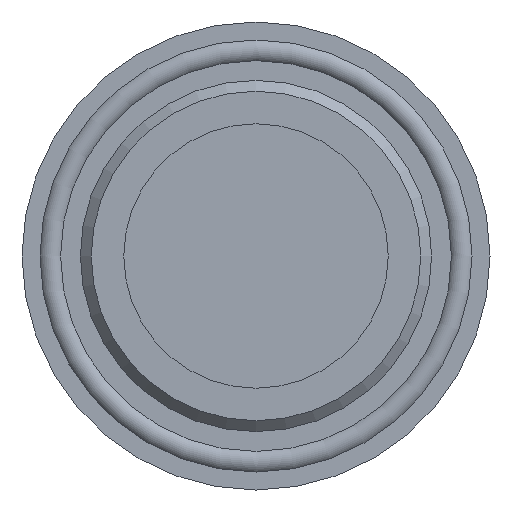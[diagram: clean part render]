
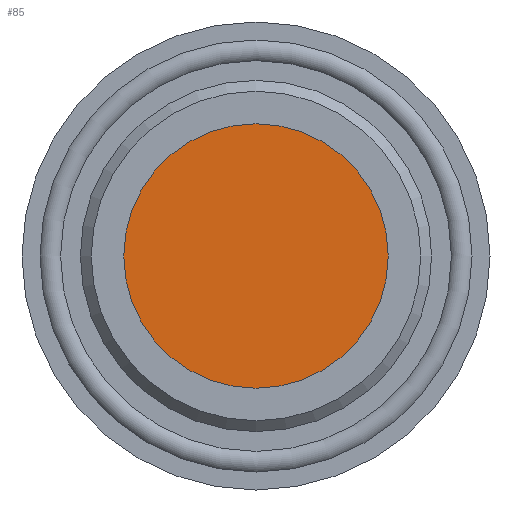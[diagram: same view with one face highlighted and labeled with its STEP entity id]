
A CAD part, front view. The second image highlights one B-rep face of the part: STEP entity #85.
In plain terms, the highlighted planar face has unit normal (0, -1, 0).
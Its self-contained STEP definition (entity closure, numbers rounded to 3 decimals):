
#85 = ADVANCED_FACE( '', ( #155 ), #156, .T. );
#155 = FACE_OUTER_BOUND( '', #272, .T. );
#156 = PLANE( '', #273 );
#272 = EDGE_LOOP( '', ( #424 ) );
#273 = AXIS2_PLACEMENT_3D( '', #425, #426, #427 );
#424 = ORIENTED_EDGE( '', *, *, #774, .T. );
#425 = CARTESIAN_POINT( '', ( 0., 22.3, 0. ) );
#426 = DIRECTION( '', ( 0., -1., 0. ) );
#427 = DIRECTION( '', ( 0., 0., -1. ) );
#774 = EDGE_CURVE( '', #912, #912, #913, .T. );
#912 = VERTEX_POINT( '', #1168 );
#913 = CIRCLE( '', #1169, 18. );
#1168 = CARTESIAN_POINT( '', ( 0., 22.3, -18. ) );
#1169 = AXIS2_PLACEMENT_3D( '', #1491, #1492, #1493 );
#1491 = CARTESIAN_POINT( '', ( 0., 22.3, 0. ) );
#1492 = DIRECTION( '', ( 0., -1., 0. ) );
#1493 = DIRECTION( '', ( 0., 0., -1. ) );
